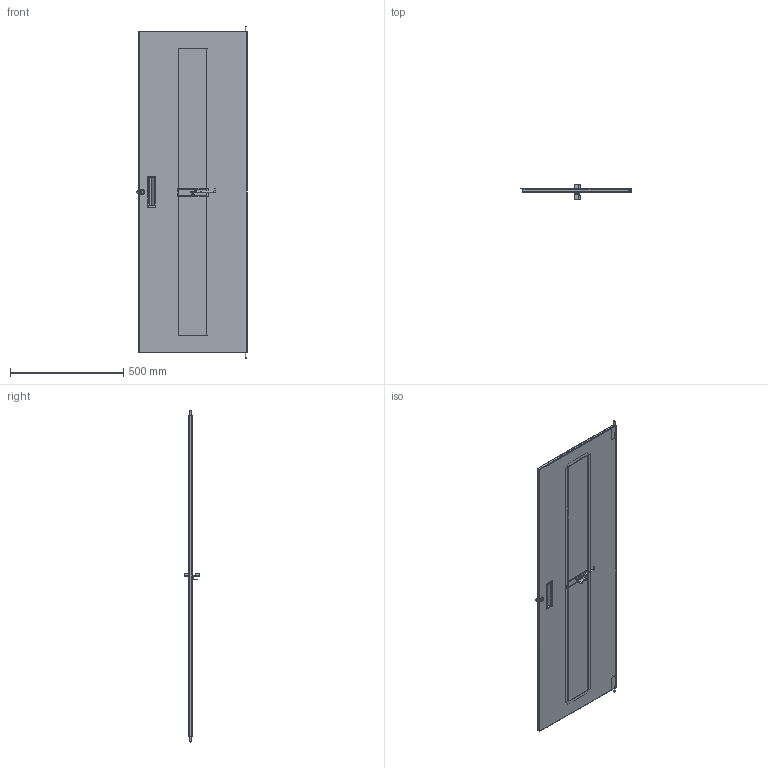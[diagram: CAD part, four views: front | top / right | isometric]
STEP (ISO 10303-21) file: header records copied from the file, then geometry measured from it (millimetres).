
FILE_DESCRIPTION( ( 'Unknown' ), '1' );
FILE_NAME( 'Q:/REFK/DOORS/SOLID/WEB DRAWINGS/STEP/RSDF19056.stp', 'Unknown', ( 'Unknown' ), ( 'Unknown' ), 'XStep 1.0', 'Unknown', ' ' );
FILE_SCHEMA( ( 'CONFIG_CONTROL_DESIGN' ) );
Length unit declared in the file: millimetre
Products named in the file (8): Assem1; Assem2; 1; 2; 3; 4; 5; 6
Bounding box: 486.46 x 69.85 x 1463.95 mm (x, y, z)
Volume: 4150085.5 mm3; surface area: 5921387.4 mm2
Topology: 18 solids, 18 shells, 692 faces, 1705 edges, 1066 vertices
Faces by surface type: plane 441, cylinder 194, bspline 40, cone 11, torus 6
Full cylindrical faces by diameter (mm): 5.182 x3, 6.35 x9, 8.382 x2, 13.868 x2, 13.97 x2, 21.996 x2
Entity records: 7717 total; most frequent: CARTESIAN_POINT 1802, ORIENTED_EDGE 1136, DIRECTION 1129, EDGE_CURVE 568, LINE 409, VECTOR 409, VERTEX_POINT 361, AXIS2_PLACEMENT_3D 360
